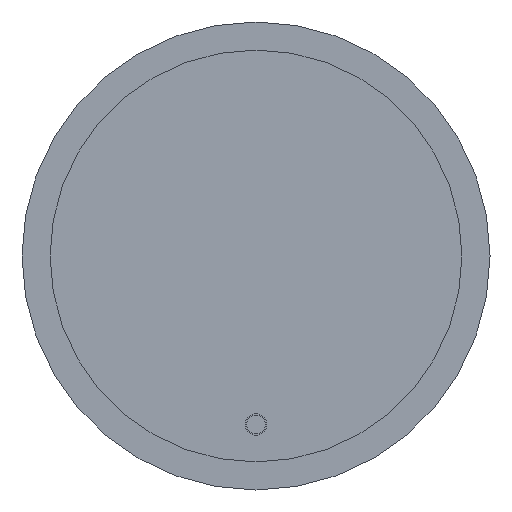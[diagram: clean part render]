
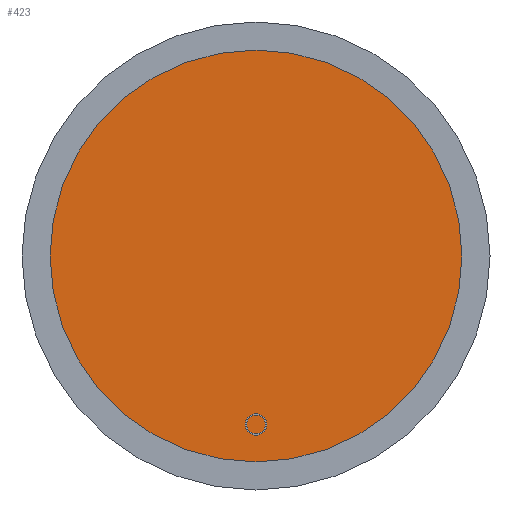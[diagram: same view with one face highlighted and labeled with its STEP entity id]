
A CAD part, front view. The second image highlights one B-rep face of the part: STEP entity #423.
In plain terms, the highlighted planar face has unit normal (0, -1, 0).
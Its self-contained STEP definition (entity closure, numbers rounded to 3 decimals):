
#34=PLANE('',#504);
#55=FACE_OUTER_BOUND('',#83,.T.);
#83=EDGE_LOOP('',(#336,#337));
#149=CIRCLE('',#501,250.);
#150=CIRCLE('',#502,250.);
#190=VERTEX_POINT('',#756);
#191=VERTEX_POINT('',#758);
#241=EDGE_CURVE('',#190,#191,#149,.T.);
#242=EDGE_CURVE('',#191,#190,#150,.T.);
#336=ORIENTED_EDGE('',*,*,#242,.F.);
#337=ORIENTED_EDGE('',*,*,#241,.F.);
#423=ADVANCED_FACE('',(#55),#34,.T.);
#501=AXIS2_PLACEMENT_3D('',#759,#625,#626);
#502=AXIS2_PLACEMENT_3D('',#760,#627,#628);
#504=AXIS2_PLACEMENT_3D('',#762,#631,#632);
#625=DIRECTION('center_axis',(0.,1.,0.));
#626=DIRECTION('ref_axis',(1.,0.,0.));
#627=DIRECTION('center_axis',(0.,1.,0.));
#628=DIRECTION('ref_axis',(1.,0.,0.));
#631=DIRECTION('center_axis',(0.,-1.,0.));
#632=DIRECTION('ref_axis',(0.,0.,-1.));
#756=CARTESIAN_POINT('',(0.,-35.,-250.));
#758=CARTESIAN_POINT('',(0.,-35.,250.));
#759=CARTESIAN_POINT('Origin',(0.,-35.,0.));
#760=CARTESIAN_POINT('Origin',(0.,-35.,0.));
#762=CARTESIAN_POINT('Origin',(0.,-35.,250.));
